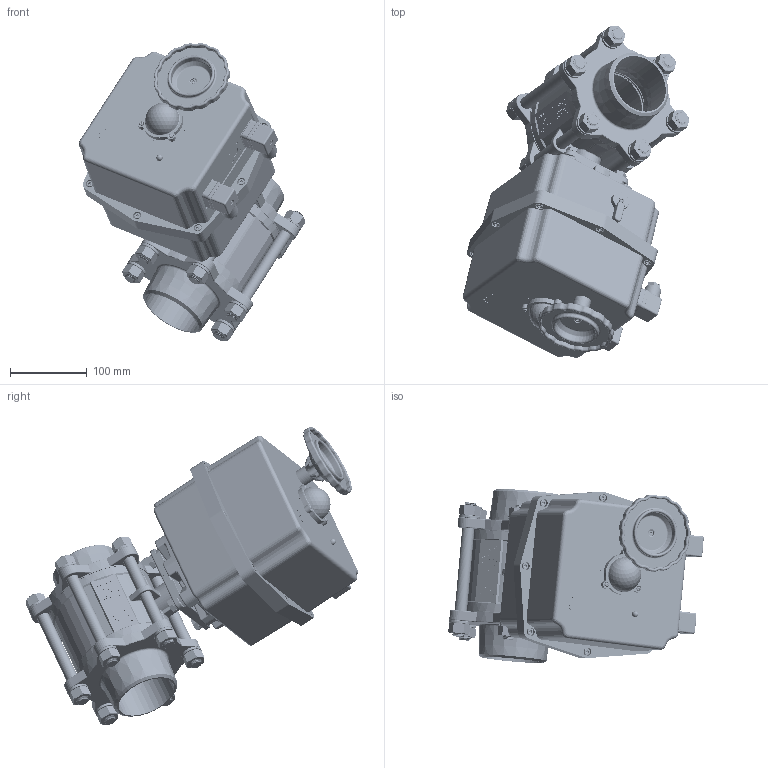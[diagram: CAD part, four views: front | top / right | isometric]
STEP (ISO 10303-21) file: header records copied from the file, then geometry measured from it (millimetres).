
FILE_DESCRIPTION((''),'2;1');
FILE_NAME('M:\3D-Files nach Lieferanten\TA-Produkte\angetriebene Armaturen\Register 9\RB_791x\7914 080 S140.stp','2021-12-02T16:29:07',('RL'),(''),'Autodesk Inventor 2012','Autodesk Inventor 2012','');
FILE_SCHEMA(('AUTOMOTIVE_DESIGN { 1 0 10303 214 1 1 1 1 }'));
Length unit declared in the file: millimetre
Products named in the file (1): 7914 080 S140
Bounding box: 295.26 x 432.8 x 388.31 mm (x, y, z)
Volume: 3058547.6 mm3; surface area: 920778.6 mm2
Topology: 62 solids, 72 shells, 5819 faces, 15892 edges, 10151 vertices
Faces by surface type: plane 2023, cylinder 1690, cone 896, torus 617, bspline 419, sphere 174
Full cylindrical faces by diameter (mm): 1.5 x8, 1.913 x3, 2.29 x3, 2.5 x4, 3 x28, 3.25 x12, 3.5 x13, 3.9 x1, 4 x6, 4.134 x36, 4.2 x1, 4.5 x11, 4.6 x1, 5 x83, 5.5 x8, 5.7 x3, 6 x4, 6.4 x8, 6.426 x7, 6.5 x4, 7 x3, 8 x60, 8.2 x8, 8.5 x8, 9 x4, 9.75 x1, 10 x9, 10.2 x4, 10.5 x2, 10.8 x1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
Entity records: 270424 total; most frequent: CARTESIAN_POINT 137055, ORIENTED_EDGE 27476, DIRECTION 26516, EDGE_CURVE 13738, AXIS2_PLACEMENT_3D 10555, VERTEX_POINT 9429, EDGE_LOOP 7540, FACE_OUTER_BOUND 5736
